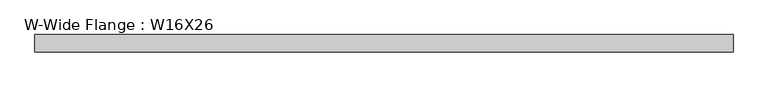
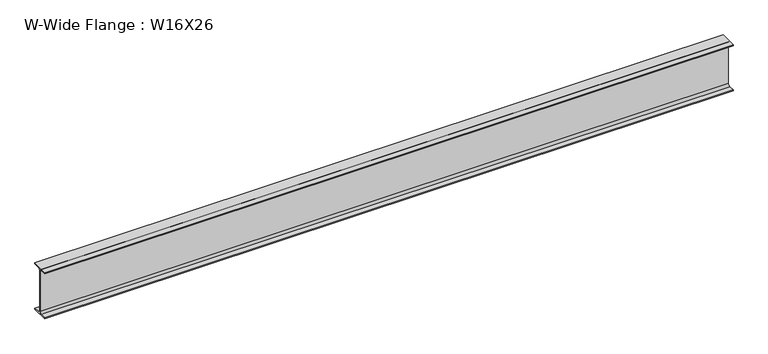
"""IFC4 building model written with IfcOpenShell, lengths in millimetres: beam geometry, W-Wide Flange : W16X26."""

import ifcopenshell
import ifcopenshell.guid

model = None  # the IFC model being written
_history = None  # IfcOwnerHistory: only IFC2X3 demands one
_inside = {}  # id of a spatial element -> (the spatial element, [elements in it])
_under = {}  # id of a project, library or spatial element -> (it, [spatial elements below it])
_declared = {}  # id of a project -> (the project, [libraries it declares])
_typed = {}  # id of a type object -> (the type object, [elements of that type])
_made_of = {}  # id of a material, layer set ... -> (it, [elements and type objects made of it])


def new_model(schema):
    """Start an empty IFC model of exactly this schema.

    Asked for "IFC4X3", IfcOpenShell would pick the latest addendum, in which some entities
    have other attributes; the version numbers below select the first issue.
    IFC2X3 requires an IfcOwnerHistory on every rooted entity: one is made here for all.
    """
    global model, _history
    if schema == "IFC4X3":
        model = ifcopenshell.file(schema_version=(4, 3, 0, 0))
    else:
        model = ifcopenshell.file(schema=schema)
    _inside.clear()
    _under.clear()
    _declared.clear()
    _typed.clear()
    _made_of.clear()
    _history = None
    if model.schema == "IFC2X3":
        org = make("IfcOrganization", Name="unknown")
        user = make(
            "IfcPersonAndOrganization",
            ThePerson=make("IfcPerson", FamilyName="unknown"),
            TheOrganization=org,
        )
        app = make(
            "IfcApplication",
            ApplicationDeveloper=org,
            Version="unknown",
            ApplicationFullName="unknown",
            ApplicationIdentifier="unknown",
        )
        _history = make(
            "IfcOwnerHistory",
            OwningUser=user,
            OwningApplication=app,
            ChangeAction="ADDED",
            CreationDate=0,
        )
    return model


def make(cls, **values):
    """One entity of the class cls with the attributes given. An attribute that is None is left unset."""
    return model.create_entity(
        cls, **{name: value for name, value in values.items() if value is not None}
    )


def rooted(cls, **values):
    """An entity with a GlobalId (a new one), such as an element, a storey or a relation."""
    return make(cls, GlobalId=ifcopenshell.guid.new(), OwnerHistory=_history, **values)


def si_unit(unit_type, name, prefix=None):
    """IfcSIUnit, for example si_unit("LENGTHUNIT", "METRE", prefix="MILLI")."""
    return make("IfcSIUnit", UnitType=unit_type, Prefix=prefix, Name=name)


def assignment(units):
    """IfcUnitAssignment: the units of a project."""
    return None if units is None else make("IfcUnitAssignment", Units=units)


def point(xyz):
    """IfcCartesianPoint."""
    return None if xyz is None else make("IfcCartesianPoint", Coordinates=xyz)


def direction(xyz):
    """IfcDirection."""
    return None if xyz is None else make("IfcDirection", DirectionRatios=xyz)


def frame(location, z_axis=None, x_axis=None):
    """IfcAxis2Placement3D, a coordinate frame: its origin and axes. An axis left out is left unset."""
    return make(
        "IfcAxis2Placement3D",
        Location=point(location),
        Axis=direction(z_axis),
        RefDirection=direction(x_axis),
    )


def frame_2d(location, x_axis=None):
    """IfcAxis2Placement2D, a coordinate frame in the plane: its origin and x axis."""
    return make(
        "IfcAxis2Placement2D", Location=point(location), RefDirection=direction(x_axis)
    )


def origin():
    """The frame at (0, 0, 0) with its axes left unset."""
    return frame((0.0, 0.0, 0.0))


def place(relative_to, where):
    """IfcLocalPlacement: puts the frame where relative to a parent placement (None: the world)."""
    return make(
        "IfcLocalPlacement", PlacementRelTo=relative_to, RelativePlacement=where
    )


def context(
    kind, dimensions, precision=None, world=None, true_north=None, identifier=None
):
    """IfcGeometricRepresentationContext, for example the 3D "Model" context."""
    return make(
        "IfcGeometricRepresentationContext",
        ContextIdentifier=identifier,
        ContextType=kind,
        CoordinateSpaceDimension=dimensions,
        Precision=precision,
        WorldCoordinateSystem=world,
        TrueNorth=true_north,
    )


def project(units=None, contexts=None):
    """IfcProject with its units and contexts."""
    return rooted(
        "IfcProject",
        Name="project",
        RepresentationContexts=contexts,
        UnitsInContext=assignment(units),
    )


def spatial(cls, under=None, at=None, **own):
    """A site, building, storey or space (cls), placed at a placement, below another one or the project."""
    s = rooted(cls, ObjectPlacement=at, **own)
    if under is not None:
        _under.setdefault(under.id(), (under, []))[1].append(s)
    return s


def polyline(points):
    """IfcPolyline through the points."""
    return make("IfcPolyline", Points=[point(p) for p in points])


def circle_curve(where, radius):
    """IfcCircle in the frame where."""
    return make("IfcCircle", Position=where, Radius=radius)


def trimmed(basis, trim1, trim2, sense, master):
    """IfcTrimmedCurve: the piece of a basis curve between two trims."""
    return make(
        "IfcTrimmedCurve",
        BasisCurve=basis,
        Trim1=trim1,
        Trim2=trim2,
        SenseAgreement=sense,
        MasterRepresentation=master,
    )


def segment(curve, same_sense, transition):
    """IfcCompositeCurveSegment."""
    return make(
        "IfcCompositeCurveSegment",
        Transition=transition,
        SameSense=same_sense,
        ParentCurve=curve,
    )


def composite_curve(segments, self_intersect=None):
    """IfcCompositeCurve: segments joined end to end."""
    return make("IfcCompositeCurve", Segments=segments, SelfIntersect=self_intersect)


def outline(outer, holes=None, kind="AREA"):
    """IfcArbitraryClosedProfileDef: a profile drawn as a closed curve; with holes, ...WithVoids."""
    if holes is None:
        return make("IfcArbitraryClosedProfileDef", ProfileType=kind, OuterCurve=outer)
    return make(
        "IfcArbitraryProfileDefWithVoids",
        ProfileType=kind,
        OuterCurve=outer,
        InnerCurves=holes,
    )


def extrude(swept, where, along, depth):
    """IfcExtrudedAreaSolid: the profile swept, set in the frame where, extruded along a direction by depth."""
    return make(
        "IfcExtrudedAreaSolid",
        SweptArea=swept,
        Position=where,
        ExtrudedDirection=direction(along),
        Depth=depth,
    )


def shape(context_of_items, identifier, shape_type, items):
    """IfcShapeRepresentation: the items that make up one representation, for example the "Body"."""
    return make(
        "IfcShapeRepresentation",
        ContextOfItems=context_of_items,
        RepresentationIdentifier=identifier,
        RepresentationType=shape_type,
        Items=items,
    )


def source(mapping_origin, context_of_items, identifier, shape_type, items):
    """IfcRepresentationMap: a shape defined once, which mapped items show again and again."""
    return make(
        "IfcRepresentationMap",
        MappingOrigin=mapping_origin,
        MappedRepresentation=shape(context_of_items, identifier, shape_type, items),
    )


def transform(
    local_origin,
    x_axis=None,
    y_axis=None,
    z_axis=None,
    scale=None,
    scale2=None,
    scale3=None,
    uniform=True,
):
    """IfcCartesianTransformationOperator3D, or its non-uniform kind. x_axis, y_axis, z_axis: its Axis1, 2, 3."""
    if uniform:
        return make(
            "IfcCartesianTransformationOperator3D",
            Axis1=direction(x_axis),
            Axis2=direction(y_axis),
            LocalOrigin=point(local_origin),
            Scale=scale,
            Axis3=direction(z_axis),
        )
    return make(
        "IfcCartesianTransformationOperator3DnonUniform",
        Axis1=direction(x_axis),
        Axis2=direction(y_axis),
        LocalOrigin=point(local_origin),
        Scale=scale,
        Axis3=direction(z_axis),
        Scale2=scale2,
        Scale3=scale3,
    )


def mapped(mapping_source, mapping_target):
    """IfcMappedItem: shows the shape of a source again, moved by a transform."""
    return make(
        "IfcMappedItem", MappingSource=mapping_source, MappingTarget=mapping_target
    )


def made_of(thing, what):
    """Note that an element or type object is made of a material, layer set ...; save() writes the relation."""
    if what is not None:
        _made_of.setdefault(what.id(), (what, []))[1].append(thing)
    return thing


def element(
    cls,
    number,
    at=None,
    inside=None,
    cuts=None,
    type_object=None,
    material=None,
    context=None,
    identifier="Body",
    shape_type=None,
    held_by="IfcProductDefinitionShape",
    body=None,
    shapes=None,
    **own,
):
    """One element of the class cls, such as IfcWall. Its Tag is "e" and its number.

    at: its placement. inside: the storey or other place that contains it. cuts: it is an
    opening in that element (IfcRelVoidsElement). A single representation is given by context,
    identifier, shape_type and body (its items); several are given by shapes. held_by: the class
    of the entity that holds the representations. save() writes the other relations.
    """
    e = rooted(cls, Tag="e%d" % number, ObjectPlacement=at, **own)
    if body is not None:
        shapes = [shape(context, identifier, shape_type, body)]
    if shapes is not None:
        e.Representation = make(held_by, Representations=shapes)
    if inside is not None:
        _inside.setdefault(inside.id(), (inside, []))[1].append(e)
    if cuts is not None:
        rooted(
            "IfcRelVoidsElement", RelatingBuildingElement=cuts, RelatedOpeningElement=e
        )
    if type_object is not None:
        _typed.setdefault(type_object.id(), (type_object, []))[1].append(e)
    return made_of(e, material)


def aggregate(whole, parts):
    """IfcRelAggregates: a whole, such as a stair, and the parts it consists of."""
    return rooted("IfcRelAggregates", RelatingObject=whole, RelatedObjects=parts)


def save(model, path):
    """Write the relations noted so far, then the file.

    IfcRelAggregates (storeys below a building ...), IfcRelContainedInSpatialStructure (elements
    in a storey), IfcRelDefinesByType, IfcRelAssociatesMaterial and IfcRelDeclares: one each for
    every whole, place, type object, material and project.
    """
    for whole, parts in _under.values():
        aggregate(whole, parts)
    for where, things in _inside.values():
        rooted(
            "IfcRelContainedInSpatialStructure",
            RelatedElements=things,
            RelatingStructure=where,
        )
    for kind, things in _typed.values():
        rooted("IfcRelDefinesByType", RelatedObjects=things, RelatingType=kind)
    for what, things in _made_of.values():
        rooted("IfcRelAssociatesMaterial", RelatedObjects=things, RelatingMaterial=what)
    for by, libraries in _declared.values():
        rooted("IfcRelDeclares", RelatingContext=by, RelatedDefinitions=libraries)
    model.write(path)


def w_wide_flange_w16x26_394d27fb(model_context):
    return source(origin(), model_context, "Body", "SweptSolid", [
        extrude(outline(composite_curve([segment(polyline([(69.85, -190.5496094), (69.85, -199.2808594), (-69.85, -199.2808594), (-69.85, -190.5496094), (-21.43125, -190.5496094)]), True, "CONTINUOUS"), segment(trimmed(circle_curve(frame_2d((-21.43125, -172.2933594)), 18.25625), [point((-21.43125, -190.5496094))], [point((-3.175, -172.2933594))], True, "CARTESIAN"), True, "CONTINUOUS"), segment(polyline([(-3.175, -172.2933594), (-3.175, 172.2933594)]), True, "CONTINUOUS"), segment(trimmed(circle_curve(frame_2d((-21.43125, 172.2933594)), 18.25625), [point((-3.175, 172.2933594))], [point((-21.43125, 190.5496094))], True, "CARTESIAN"), True, "CONTINUOUS"), segment(polyline([(-21.43125, 190.5496094), (-69.85, 190.5496094), (-69.85, 199.2808594), (69.85, 199.2808594), (69.85, 190.5496094), (21.43125, 190.5496094)]), True, "CONTINUOUS"), segment(trimmed(circle_curve(frame_2d((21.43125, 172.2933594)), 18.25625), [point((21.43125, 190.5496094))], [point((3.175, 172.2933594))], True, "CARTESIAN"), True, "CONTINUOUS"), segment(polyline([(3.175, 172.2933594), (3.175, -172.2933594)]), True, "CONTINUOUS"), segment(trimmed(circle_curve(frame_2d((21.43125, -172.2933594)), 18.25625), [point((3.175, -172.2933594))], [point((21.43125, -190.5496094))], True, "CARTESIAN"), True, "CONTINUOUS"), segment(polyline([(21.43125, -190.5496094), (69.85, -190.5496094)]), True, "CONTINUOUS")], self_intersect=False)), frame((-2816.4895833, 0.0, 0.0), z_axis=(1.0, 0.0, 0.0), x_axis=(0.0, 1.0, 0.0)), (0.0, 0.0, 1.0), 5613.4),
    ])


if __name__ == "__main__":
    model = new_model("IFC4")
    model_context = context("Model", 3, world=origin())
    ifc_project = project(units=[si_unit("LENGTHUNIT", "METRE", prefix="MILLI")], contexts=[model_context])
    site = spatial("IfcSite", under=ifc_project)
    building = spatial("IfcBuilding", under=site)
    placement = place(None, origin())
    w_wide_flange_w16x26_shape = w_wide_flange_w16x26_394d27fb(model_context)
    element("IfcBeam", 1, ObjectType="W-Wide Flange : W16X26", at=placement, inside=building, context=model_context, shape_type="MappedRepresentation", body=[
        mapped(w_wide_flange_w16x26_shape, transform((0.0, 0.0, 0.0), x_axis=(1.0, 0.0, 0.0), y_axis=(0.0, 1.0, 0.0), z_axis=(0.0, 0.0, 1.0))),
    ])
    save(model, "model.ifc")
